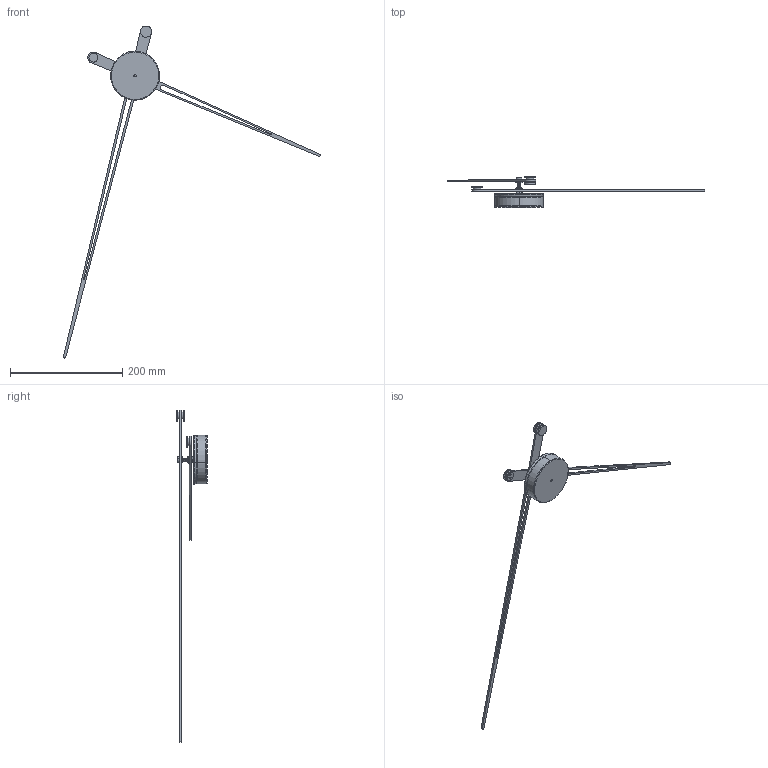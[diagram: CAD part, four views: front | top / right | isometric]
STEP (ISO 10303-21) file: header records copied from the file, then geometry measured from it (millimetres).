
FILE_DESCRIPTION (( 'STEP AP214' ), '1' );
FILE_NAME ('Axioma_n_100.STEP', '2021-09-06T08:27:38', ( '' ), ( '' ), 'SwSTEP 2.0', 'SolidWorks 2016', '' );
FILE_SCHEMA (( 'AUTOMOTIVE_DESIGN' ));
Length unit declared in the file: millimetre
Products named in the file (19): Arandela_2; Pasante; Aguja_horaria_calada_nogal; Contrapeso_pequeño; Mecanismo; Cierre_contrapeso; Esparrago; Embellecedor; Pieza_caja_inferior; Tuerca 1.5; Pieza2; Tuerca; Contrapeso grande; Caja_acero_inox; Axioma_n_100; aguja_minutera_calada_nogal; Pieza_caja_superior; aguja_horaria_calada_nogal; Aguja_minutera_calada_nogal
Assembly tree (20 placements, depth 3):
  Axioma_n_100
    Caja_acero_inox
      Pieza_caja_inferior
      Pieza_caja_superior
      Mecanismo
      Pieza2
    Aguja_horaria_calada_nogal
      aguja_horaria_calada_nogal
      Contrapeso_pequeño
      Cierre_contrapeso
      Arandela_2
      Tuerca
      Pasante
    Aguja_minutera_calada_nogal
      aguja_minutera_calada_nogal
      Contrapeso grande  x2
      Arandela_2
      Embellecedor
      Esparrago
      Tuerca 1.5
Bounding box: 458.39 x 55.1 x 592.05 mm (x, y, z)
Volume: 93333.7 mm3; surface area: 90691 mm2
Topology: 17 solids, 17 shells, 216 faces, 452 edges, 286 vertices
Faces by surface type: cylinder 104, plane 74, torus 26, cone 12
Entity records: 6330 total; most frequent: DIRECTION 1134, CARTESIAN_POINT 927, ORIENTED_EDGE 856, AXIS2_PLACEMENT_3D 477, EDGE_CURVE 428, VERTEX_POINT 270, CIRCLE 248, EDGE_LOOP 244
